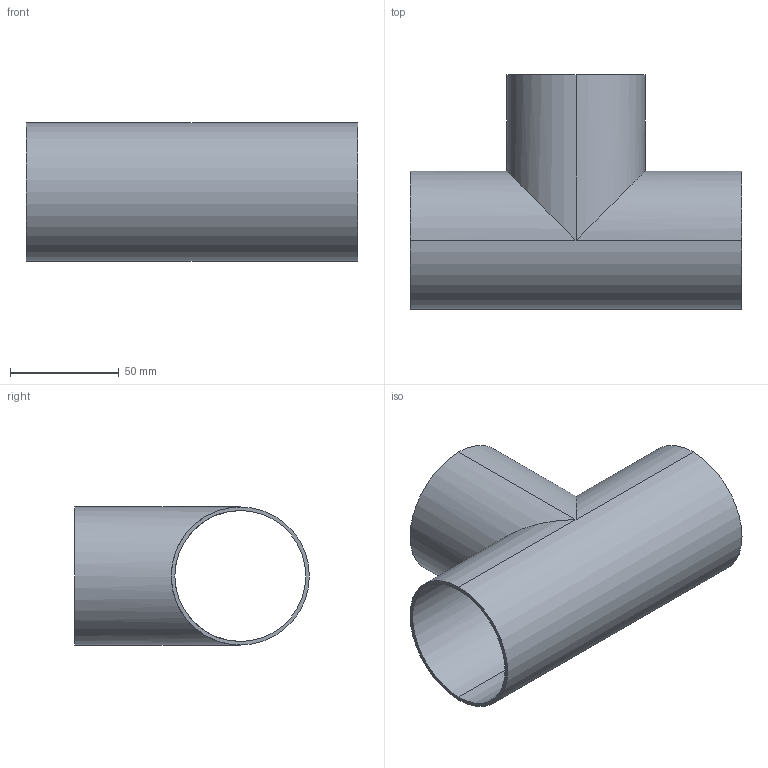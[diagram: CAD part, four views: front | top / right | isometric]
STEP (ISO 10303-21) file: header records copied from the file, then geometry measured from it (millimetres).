
FILE_DESCRIPTION (( 'STEP AP203' ), '1' );
FILE_NAME ('V7W2.5.STEP', '2018-05-11T14:59:37', ( 'vneprd' ), ( 'Microsoft' ), 'SwSTEP 2.0', 'SolidWorks 2014', '' );
FILE_SCHEMA (( 'CONFIG_CONTROL_DESIGN' ));
Length unit declared in the file: inch
Products named in the file (1): V7W2.5
Bounding box: 152.4 x 107.95 x 63.5 mm (x, y, z)
Volume: 60699.9 mm3; surface area: 74486.2 mm2
Topology: 1 solids, 1 shells, 13 faces, 28 edges, 16 vertices
Faces by surface type: cylinder 10, plane 3
Entity records: 437 total; most frequent: CARTESIAN_POINT 70, DIRECTION 64, ORIENTED_EDGE 56, EDGE_CURVE 28, AXIS2_PLACEMENT_3D 26, EDGE_LOOP 16, VERTEX_POINT 16, ADVANCED_FACE 13
